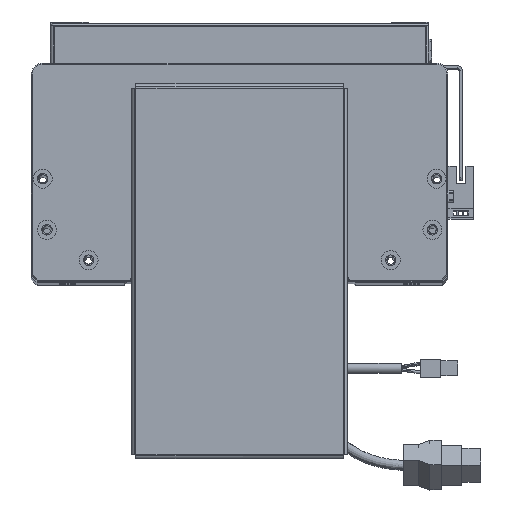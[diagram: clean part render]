
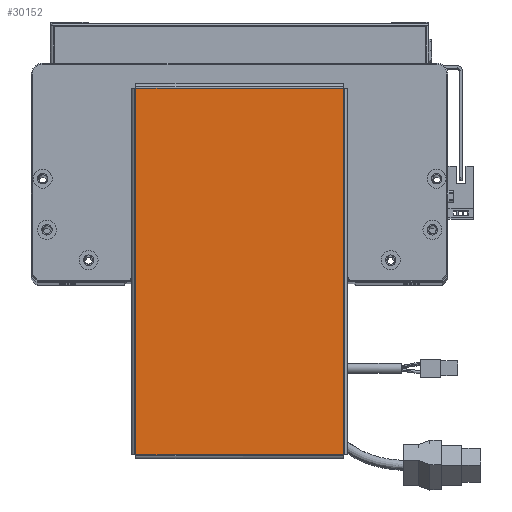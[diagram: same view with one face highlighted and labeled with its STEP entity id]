
A CAD part, top view. The second image highlights one B-rep face of the part: STEP entity #30152.
In plain terms, the highlighted planar face has unit normal (0, 0, 1).
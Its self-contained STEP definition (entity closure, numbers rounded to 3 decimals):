
#1404 = VERTEX_POINT ( 'NONE', #22167 ) ;
#2790 = CARTESIAN_POINT ( 'NONE',  ( 96.763, -54.793, 0. ) ) ;
#5016 = FACE_OUTER_BOUND ( 'NONE', #39596, .T. ) ;
#5429 = CARTESIAN_POINT ( 'NONE',  ( -96.763, 54.793, 0. ) ) ;
#6495 = EDGE_CURVE ( 'NONE', #1404, #19081, #25813, .T. ) ;
#6948 = DIRECTION ( 'NONE',  ( 1., 0., 0. ) ) ;
#7648 = PLANE ( 'NONE',  #11705 ) ;
#11705 = AXIS2_PLACEMENT_3D ( 'NONE', #23093, #43186, #63163 ) ;
#11968 = LINE ( 'NONE', #24214, #51495 ) ;
#17386 = EDGE_CURVE ( 'NONE', #19081, #58742, #58753, .T. ) ;
#19081 = VERTEX_POINT ( 'NONE', #57849 ) ;
#22167 = CARTESIAN_POINT ( 'NONE',  ( -96.763, -54.763, 0. ) ) ;
#23093 = CARTESIAN_POINT ( 'NONE',  ( 0., 0., 0. ) ) ;
#23813 = LINE ( 'NONE', #5429, #62594 ) ;
#24214 = CARTESIAN_POINT ( 'NONE',  ( 96.793, 54.763, 0. ) ) ;
#25813 = LINE ( 'NONE', #52515, #61449 ) ;
#28061 = ORIENTED_EDGE ( 'NONE', *, *, #17386, .T. ) ;
#30152 = ADVANCED_FACE ( 'NONE', ( #5016 ), #7648, .T. ) ;
#30563 = CARTESIAN_POINT ( 'NONE',  ( 96.763, 54.763, 0. ) ) ;
#31785 = VERTEX_POINT ( 'NONE', #38263 ) ;
#38263 = CARTESIAN_POINT ( 'NONE',  ( -96.763, 54.763, 0. ) ) ;
#38991 = DIRECTION ( 'NONE',  ( -1., 0., 0. ) ) ;
#39596 = EDGE_LOOP ( 'NONE', ( #51377, #28061, #58738, #46015 ) ) ;
#41113 = EDGE_CURVE ( 'NONE', #58742, #31785, #11968, .T. ) ;
#41313 = EDGE_CURVE ( 'NONE', #31785, #1404, #23813, .T. ) ;
#43186 = DIRECTION ( 'NONE',  ( 0., 0., 1. ) ) ;
#46015 = ORIENTED_EDGE ( 'NONE', *, *, #41313, .T. ) ;
#46514 = DIRECTION ( 'NONE',  ( 0., -1., 0. ) ) ;
#48516 = DIRECTION ( 'NONE',  ( 0., 1., 0. ) ) ;
#51377 = ORIENTED_EDGE ( 'NONE', *, *, #6495, .T. ) ;
#51495 = VECTOR ( 'NONE', #38991, 1000. ) ;
#52515 = CARTESIAN_POINT ( 'NONE',  ( -96.793, -54.763, 0. ) ) ;
#54842 = VECTOR ( 'NONE', #48516, 1000. ) ;
#57849 = CARTESIAN_POINT ( 'NONE',  ( 96.763, -54.763, 0. ) ) ;
#58738 = ORIENTED_EDGE ( 'NONE', *, *, #41113, .T. ) ;
#58742 = VERTEX_POINT ( 'NONE', #30563 ) ;
#58753 = LINE ( 'NONE', #2790, #54842 ) ;
#61449 = VECTOR ( 'NONE', #6948, 1000. ) ;
#62594 = VECTOR ( 'NONE', #46514, 1000. ) ;
#63163 = DIRECTION ( 'NONE',  ( 1., 0., 0. ) ) ;
